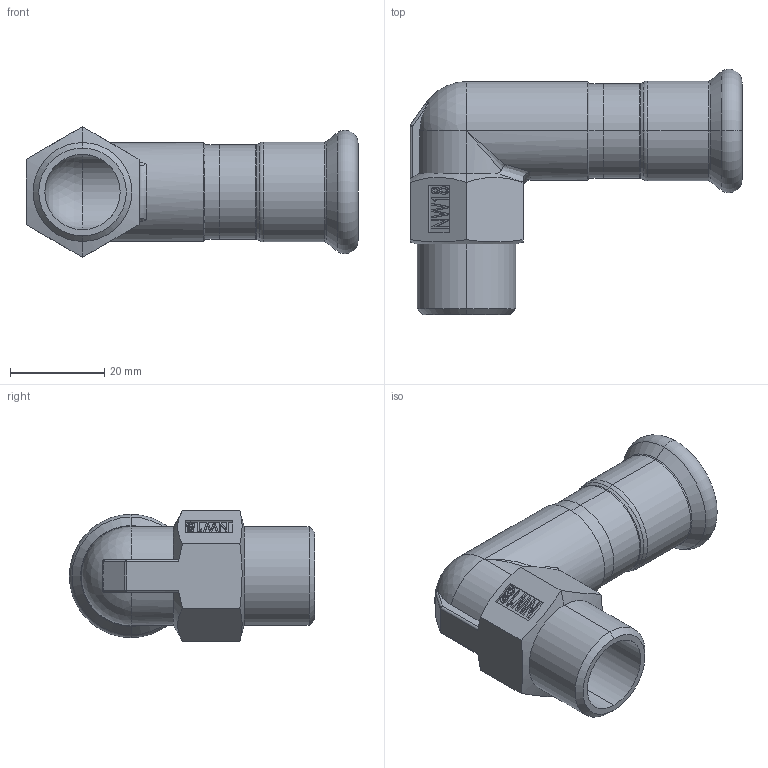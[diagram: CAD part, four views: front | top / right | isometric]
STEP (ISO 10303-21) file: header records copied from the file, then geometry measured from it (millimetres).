
FILE_DESCRIPTION (( 'STEP AP203' ), '1' );
FILE_NAME ('GDA5272.STEP', '2019-01-15T05:31:40', ( '' ), ( '' ), 'SwSTEP 2.0', 'SolidWorks 2015', '' );
FILE_SCHEMA (( 'CONFIG_CONTROL_DESIGN' ));
Length unit declared in the file: millimetre
Products named in the file (3): T-ｉ-01-18; OD18｡ﾁ0.5; GDA5272
Assembly tree (2 placements, depth 2):
  GDA5272
    OD18｡ﾁ0.5
    T-ｉ-01-18
Bounding box: 70.5 x 52.1 x 27.71 mm (x, y, z)
Volume: 14761.2 mm3; surface area: 12659.5 mm2
Topology: 2 solids, 2 shells, 154 faces, 367 edges, 219 vertices
Faces by surface type: plane 56, cylinder 34, bspline 24, cone 17, torus 17, sphere 6
Entity records: 5730 total; most frequent: CARTESIAN_POINT 2069, ORIENTED_EDGE 718, DIRECTION 660, EDGE_CURVE 359, AXIS2_PLACEMENT_3D 241, VERTEX_POINT 218, LINE 178, VECTOR 178
